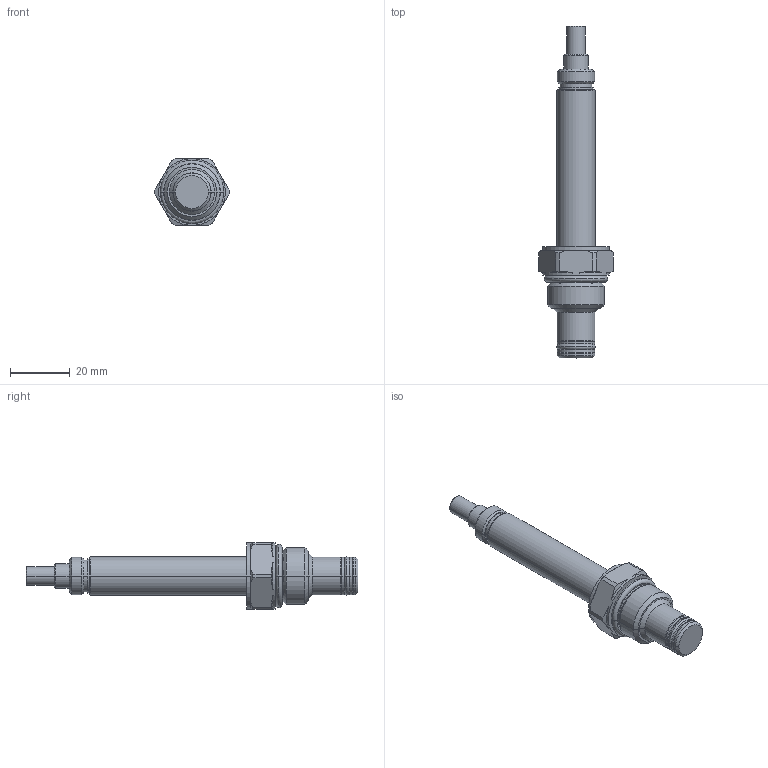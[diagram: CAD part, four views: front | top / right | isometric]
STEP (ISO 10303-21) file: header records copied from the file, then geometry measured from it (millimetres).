
FILE_DESCRIPTION((''),'2;1');
FILE_NAME('PRT0001','2009-04-28T',('JCS'),(''),'PRO/ENGINEER BY PARAMETRIC TECHNOLOGY CORPORATION, 2008510','PRO/ENGINEER BY PARAMETRIC TECHNOLOGY CORPORATION, 2008510','');
FILE_SCHEMA(('CONFIG_CONTROL_DESIGN'));
Length unit declared in the file: inch
Products named in the file (1): PRT0001
Bounding box: 24.94 x 111.1 x 22.23 mm (x, y, z)
Volume: 17124.3 mm3; surface area: 6439.2 mm2
Topology: 2 solids, 2 shells, 137 faces, 300 edges, 178 vertices
Faces by surface type: cylinder 46, cone 38, plane 21, torus 16, revolution 16
Entity records: 4112 total; most frequent: CARTESIAN_POINT 1015, DIRECTION 682, ORIENTED_EDGE 600, EDGE_CURVE 300, AXIS2_PLACEMENT_3D 285, VERTEX_POINT 178, CIRCLE 164, EDGE_LOOP 150
